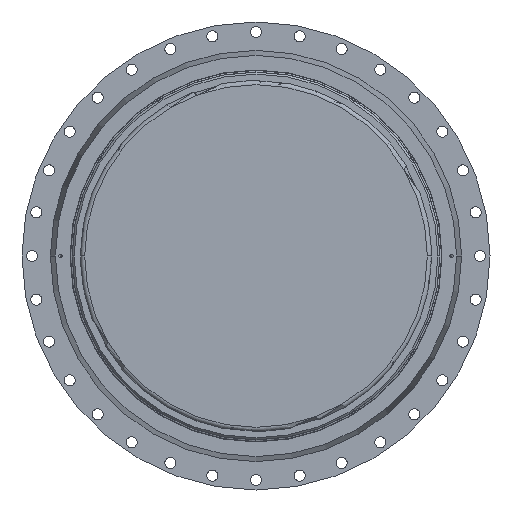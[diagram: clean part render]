
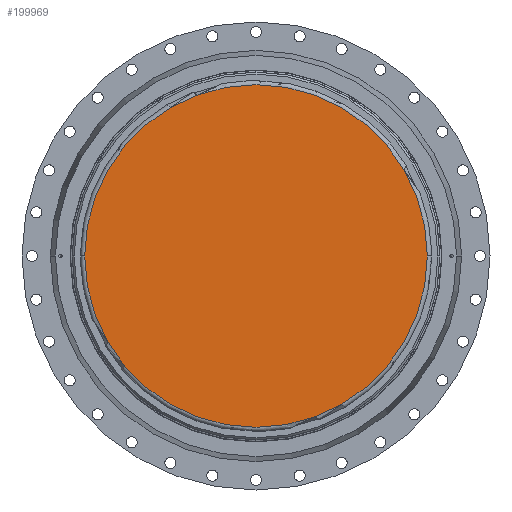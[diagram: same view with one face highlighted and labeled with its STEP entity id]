
A CAD part, front view. The second image highlights one B-rep face of the part: STEP entity #199969.
In plain terms, the highlighted planar face has unit normal (0, -1, 0).
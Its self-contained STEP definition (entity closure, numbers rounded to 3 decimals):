
#6077 = ORIENTED_EDGE ( 'NONE', *, *, #152170, .T. ) ;
#10399 = CIRCLE ( 'NONE', #71108, 512.5 ) ;
#36640 = DIRECTION ( 'NONE',  ( 0., -1., 0. ) ) ;
#40991 = AXIS2_PLACEMENT_3D ( 'NONE', #129580, #36640, #145196 ) ;
#45442 = CARTESIAN_POINT ( 'NONE',  ( 0., -1214., 0. ) ) ;
#45722 = DIRECTION ( 'NONE',  ( 0., -1., 0. ) ) ;
#55750 = FACE_OUTER_BOUND ( 'NONE', #145207, .T. ) ;
#61002 = DIRECTION ( 'NONE',  ( 0., 0., 1. ) ) ;
#65281 = VERTEX_POINT ( 'NONE', #161113 ) ;
#71108 = AXIS2_PLACEMENT_3D ( 'NONE', #45442, #153985, #61002 ) ;
#97009 = EDGE_CURVE ( 'NONE', #163906, #65281, #10399, .T. ) ;
#122398 = PLANE ( 'NONE',  #166704 ) ;
#128461 = ORIENTED_EDGE ( 'NONE', *, *, #97009, .T. ) ;
#129580 = CARTESIAN_POINT ( 'NONE',  ( 0., -1214., 0. ) ) ;
#138601 = CARTESIAN_POINT ( 'NONE',  ( 0., -1214., 0. ) ) ;
#145196 = DIRECTION ( 'NONE',  ( 0., 0., 1. ) ) ;
#145207 = EDGE_LOOP ( 'NONE', ( #128461, #6077 ) ) ;
#152170 = EDGE_CURVE ( 'NONE', #65281, #163906, #200264, .T. ) ;
#153985 = DIRECTION ( 'NONE',  ( 0., -1., 0. ) ) ;
#154286 = DIRECTION ( 'NONE',  ( 0., 0., 1. ) ) ;
#161113 = CARTESIAN_POINT ( 'NONE',  ( 512.5, -1214., 0. ) ) ;
#163906 = VERTEX_POINT ( 'NONE', #169365 ) ;
#166704 = AXIS2_PLACEMENT_3D ( 'NONE', #138601, #45722, #154286 ) ;
#169365 = CARTESIAN_POINT ( 'NONE',  ( -512.5, -1214., 0. ) ) ;
#199969 = ADVANCED_FACE ( 'NONE', ( #55750 ), #122398, .T. ) ;
#200264 = CIRCLE ( 'NONE', #40991, 512.5 ) ;
